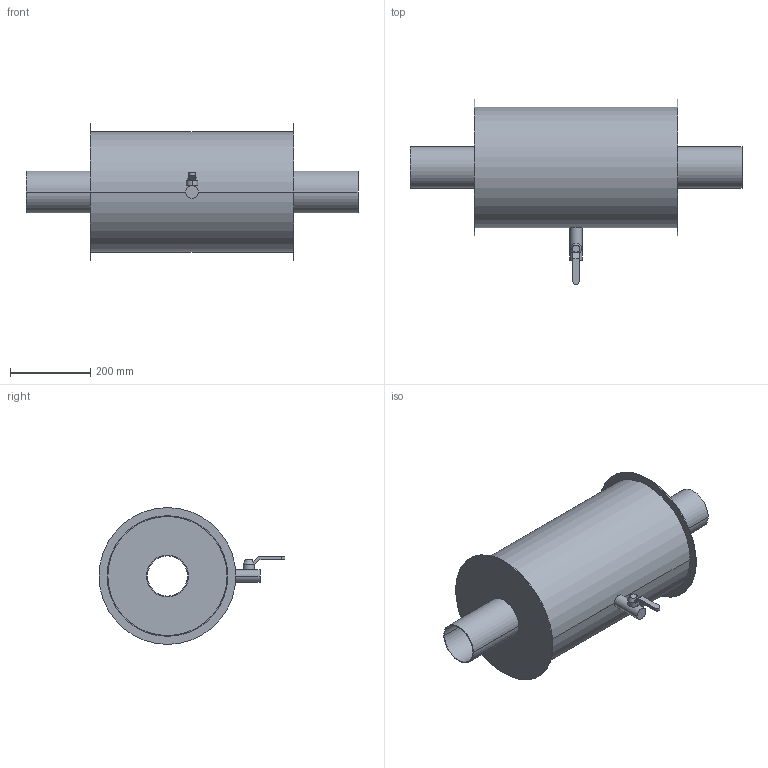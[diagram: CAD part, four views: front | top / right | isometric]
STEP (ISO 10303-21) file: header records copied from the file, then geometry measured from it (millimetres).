
FILE_DESCRIPTION((''),'2;1');
FILE_NAME('017_000117','2020-02-03T08:33:53',('gm'),('HUBER SE'),'CREO PARAMETRIC BY PTC INC, 2019224','CREO PARAMETRIC BY PTC INC, 2019224','');
FILE_SCHEMA(('AUTOMOTIVE_DESIGN { 1 0 10303 214 1 1 1 1 }'));
Length unit declared in the file: millimetre
Products named in the file (1): 017_000117
Bounding box: 825 x 462 x 340 mm (x, y, z)
Volume: 1558465.5 mm3; surface area: 1494284.1 mm2
Topology: 6 solids, 6 shells, 49 faces, 97 edges, 64 vertices
Faces by surface type: cylinder 25, plane 22, cone 2
Entity records: 1794 total; most frequent: DIRECTION 247, CARTESIAN_POINT 212, ORIENTED_EDGE 194, COLOUR_RGB 106, AXIS2_PLACEMENT_3D 101, EDGE_CURVE 97, PROPERTY_DEFINITION 67, REPRESENTATION 66
